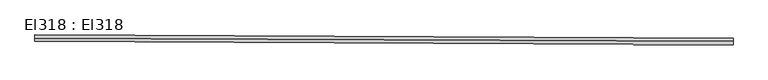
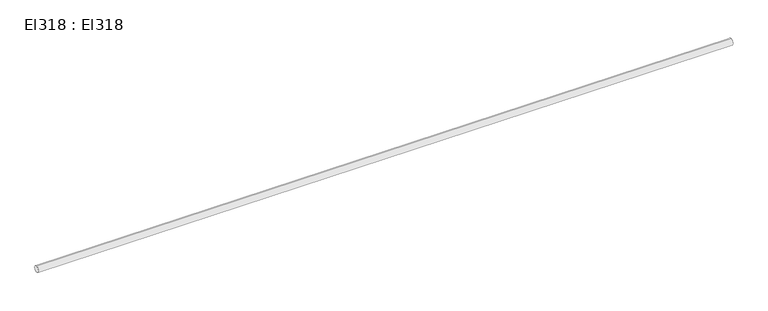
"""IFC4 building model written with IfcOpenShell, lengths in millimetres: cable carrier segment geometry, El318 : El318."""

from ifc_helpers import new_model, si_unit, point, frame, frame_2d, origin, place, context, project, spatial, circle_curve, trimmed, segment, composite_curve, outline, extrude, source, transform, mapped, element, save


def el318_el318_6e8d437c(model_context):
    return source(origin(), model_context, "Body", "SweptSolid", [
        extrude(outline(composite_curve([segment(trimmed(circle_curve(frame_2d((0.0, -9.5)), 9.5), [point((0.0, -19.0))], [point((0.0, 0.0))], False, "CARTESIAN"), True, "CONTINUOUS"), segment(trimmed(circle_curve(frame_2d((0.0, -9.5)), 9.5), [point((0.0, 0.0))], [point((0.0, -19.0))], False, "CARTESIAN"), True, "CONTINUOUS")], self_intersect=False)), frame((17471.0666874, 16514.718702, 2959.5), z_axis=(-0.9999885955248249, 0.004775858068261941, 0.0), x_axis=(-0.004775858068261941, -0.9999885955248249, 0.0)), (0.0, 0.0, 1.0), 2044.16),
    ])


if __name__ == "__main__":
    model = new_model("IFC4")
    model_context = context("Model", 3, world=origin())
    ifc_project = project(units=[si_unit("LENGTHUNIT", "METRE", prefix="MILLI")], contexts=[model_context])
    site = spatial("IfcSite", under=ifc_project)
    building = spatial("IfcBuilding", under=site)
    placement = place(None, origin())
    el318_el318_shape = el318_el318_6e8d437c(model_context)
    element("IfcCableCarrierSegment", 1, ObjectType="El318 : El318", at=placement, inside=building, context=model_context, shape_type="MappedRepresentation", body=[
        mapped(el318_el318_shape, transform((0.0, 0.0, 0.0), x_axis=(1.0, 0.0, 0.0), y_axis=(0.0, 1.0, 0.0), z_axis=(0.0, 0.0, 1.0))),
    ])
    save(model, "model.ifc")
